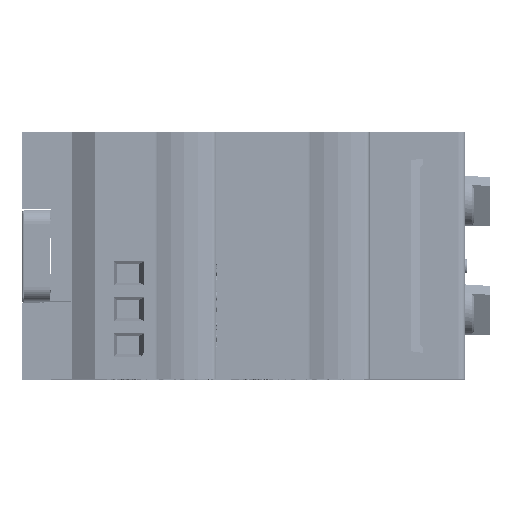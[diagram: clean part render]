
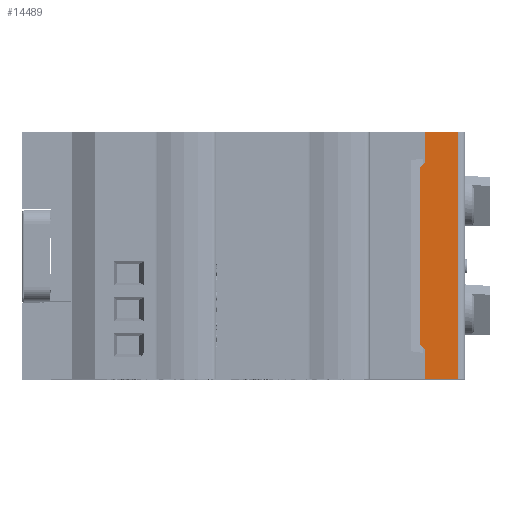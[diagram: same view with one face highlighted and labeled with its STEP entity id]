
A CAD part, top view. The second image highlights one B-rep face of the part: STEP entity #14489.
In plain terms, the highlighted planar face has unit normal (0, 0, 1) as drawn and (0, -1, 0) by its records, which use the part's own axes.
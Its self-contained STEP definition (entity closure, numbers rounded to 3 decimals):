
#14489=ADVANCED_FACE('',(#234014),#234016,.F.);
#234014=FACE_BOUND('',#234015,.T.);
#234015=EDGE_LOOP('',(#399578,#399579,#399580,#399581,#399582,#399583,#399584,#399585));
#234016=PLANE('',#234017);
#234017=AXIS2_PLACEMENT_3D('',#234018,#234019,#234020);
#234018=CARTESIAN_POINT('',(-17.5,-22.6,1.5));
#234019=DIRECTION('',(0.,1.,-0.));
#234020=DIRECTION('',(-1.,0.,0.));
#399578=ORIENTED_EDGE('',*,*,#567506,.T.);
#399579=ORIENTED_EDGE('',*,*,#567514,.T.);
#399580=ORIENTED_EDGE('',*,*,#567512,.F.);
#399581=ORIENTED_EDGE('',*,*,#567564,.F.);
#399582=ORIENTED_EDGE('',*,*,#567565,.T.);
#399583=ORIENTED_EDGE('',*,*,#567566,.F.);
#399584=ORIENTED_EDGE('',*,*,#567567,.T.);
#399585=ORIENTED_EDGE('',*,*,#567568,.F.);
#567506=EDGE_CURVE('',#638532,#638530,#638533,.T.);
#567512=EDGE_CURVE('',#638540,#638542,#638543,.T.);
#567514=EDGE_CURVE('',#638530,#638542,#638545,.T.);
#567564=EDGE_CURVE('',#638631,#638540,#638632,.T.);
#567565=EDGE_CURVE('',#638631,#638633,#638634,.T.);
#567566=EDGE_CURVE('',#638635,#638633,#638636,.T.);
#567567=EDGE_CURVE('',#638635,#638637,#638638,.T.);
#567568=EDGE_CURVE('',#638532,#638637,#638639,.T.);
#638530=VERTEX_POINT('',#759115);
#638532=VERTEX_POINT('',#759120);
#638533=LINE('',#759121,#759122);
#638540=VERTEX_POINT('',#759139);
#638542=VERTEX_POINT('',#759143);
#638543=LINE('',#759144,#759145);
#638545=LINE('',#759151,#759152);
#638631=VERTEX_POINT('',#759337);
#638632=LINE('',#759338,#759339);
#638633=VERTEX_POINT('',#759341);
#638634=LINE('',#759342,#759343);
#638635=VERTEX_POINT('',#759345);
#638636=LINE('',#759346,#759347);
#638637=VERTEX_POINT('',#759349);
#638638=LINE('',#759350,#759351);
#638639=LINE('',#759353,#759354);
#759115=CARTESIAN_POINT('',(-17.5,-22.6,1.));
#759120=CARTESIAN_POINT('',(-17.5,-22.6,5.75));
#759121=CARTESIAN_POINT('',(-17.5,-22.6,5.75));
#759122=VECTOR('',#759123,1.);
#759123=DIRECTION('',(0.,0.,-1.));
#759139=CARTESIAN_POINT('',(17.5,-22.6,5.75));
#759143=CARTESIAN_POINT('',(17.5,-22.6,1.));
#759144=CARTESIAN_POINT('',(17.5,-22.6,5.75));
#759145=VECTOR('',#759146,1.);
#759146=DIRECTION('',(0.,0.,-1.));
#759151=CARTESIAN_POINT('',(-17.5,-22.6,1.));
#759152=VECTOR('',#759153,1.);
#759153=DIRECTION('',(1.,0.,0.));
#759337=CARTESIAN_POINT('',(13.2,-22.6,5.75));
#759338=CARTESIAN_POINT('',(13.2,-22.6,5.75));
#759339=VECTOR('',#759340,1.);
#759340=DIRECTION('',(1.,0.,0.));
#759341=CARTESIAN_POINT('',(12.5,-22.6,6.45));
#759342=CARTESIAN_POINT('',(13.2,-22.6,5.75));
#759343=VECTOR('',#759344,1.);
#759344=DIRECTION('',(-0.707,0.,0.707));
#759345=CARTESIAN_POINT('',(-12.5,-22.6,6.45));
#759346=CARTESIAN_POINT('',(-12.5,-22.6,6.45));
#759347=VECTOR('',#759348,1.);
#759348=DIRECTION('',(1.,0.,0.));
#759349=CARTESIAN_POINT('',(-13.2,-22.6,5.75));
#759350=CARTESIAN_POINT('',(-12.5,-22.6,6.45));
#759351=VECTOR('',#759352,1.);
#759352=DIRECTION('',(-0.707,0.,-0.707));
#759353=CARTESIAN_POINT('',(-17.5,-22.6,5.75));
#759354=VECTOR('',#759355,1.);
#759355=DIRECTION('',(1.,0.,0.));
